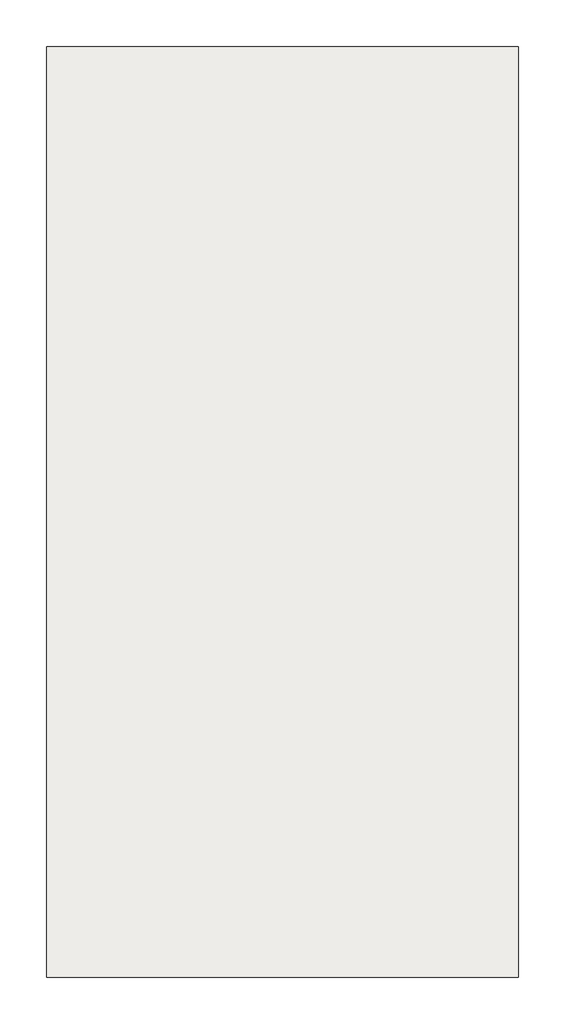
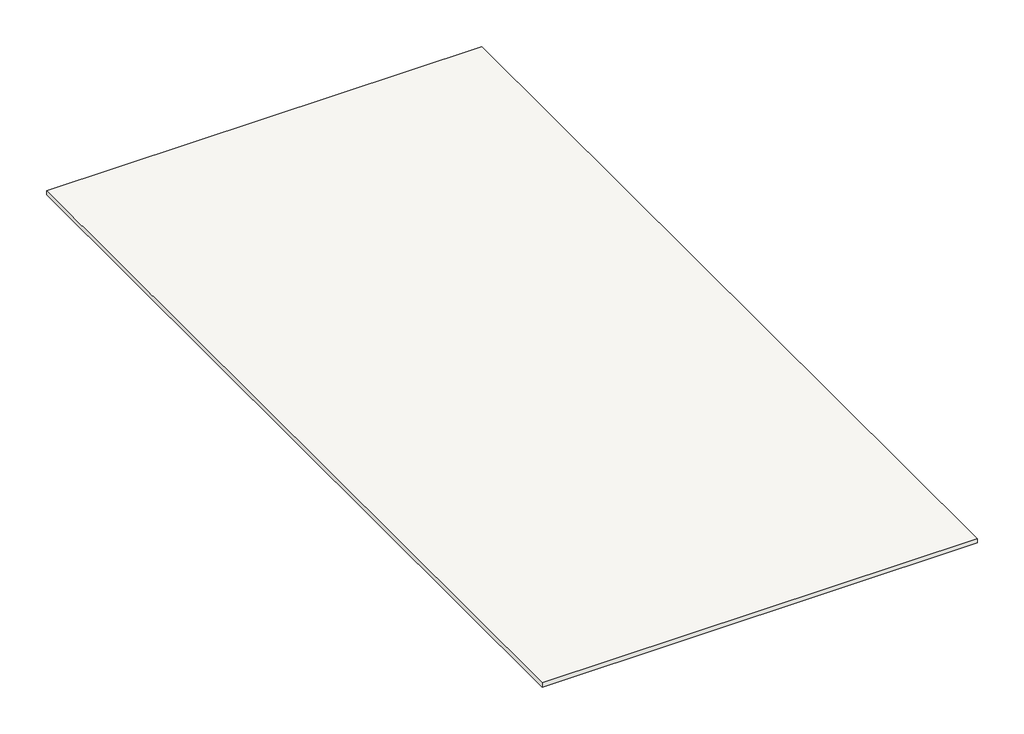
# One storey: 1 slab.
"""IFC4 building model written with IfcOpenShell, lengths in millimetres."""

from ifc_helpers import new_model, si_unit, frame, origin, place, context, project, spatial, polyline, outline, extrude, element, save

model = new_model("IFC4")

# Units and contexts
model_context = context("Model", 3, world=origin())
ifc_project = project(units=[si_unit("LENGTHUNIT", "METRE", prefix="MILLI")], contexts=[model_context])

# Site, building, storey
site = spatial("IfcSite", under=ifc_project)
building = spatial("IfcBuilding", under=site)
storey = spatial("IfcBuildingStorey", under=building, Name="+4,02 Poziom stropu", Elevation=4020.0)

# Slab
placement = place(None, origin())
element("IfcSlab", 1, ObjectType="Strop zespolony 120mm", at=placement, inside=storey, context=model_context, shape_type="SweptSolid", body=[
    extrude(outline(polyline([(-8233.1111104, -12817.4816585), (4039.0888896, -12817.4816585), (4039.0888896, -37007.4816585), (-8233.1111104, -37007.4816585), (-8233.1111104, -12817.4816585)])), frame((0.0, 0.0, 3900.0), z_axis=(0.0, 0.0, 1.0), x_axis=(1.0, 0.0, 0.0)), (0.0, 0.0, 1.0), 120.0),
])

save(model, "model.ifc")
